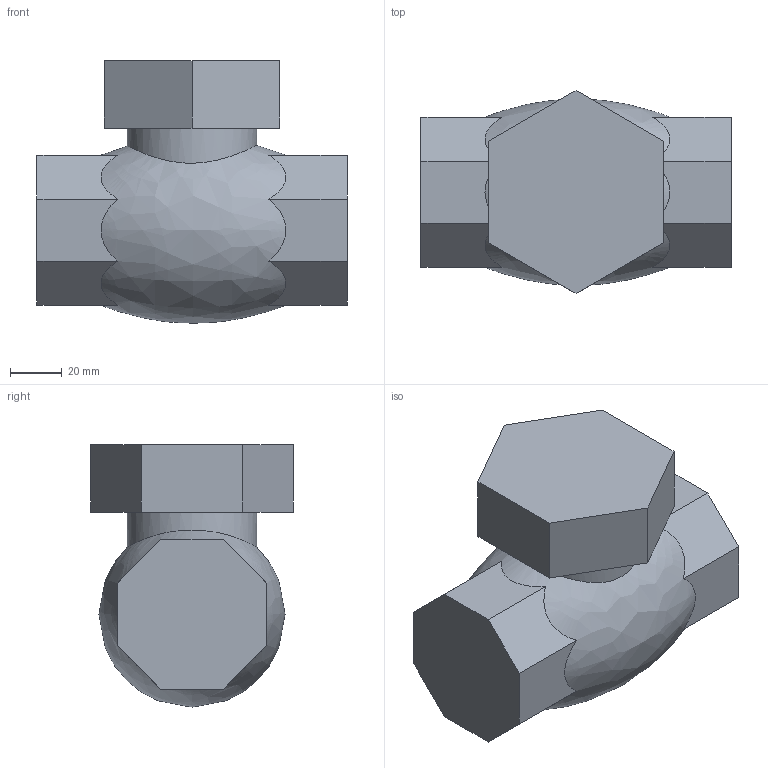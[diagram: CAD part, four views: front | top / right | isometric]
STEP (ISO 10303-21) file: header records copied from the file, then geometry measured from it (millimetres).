
FILE_DESCRIPTION(/* description */ (''),/* implementation_level */ '2;1');
FILE_NAME(/* name */ '32A.step',/* time_stamp */ '2023-12-08T09:30:32+09:00',/* author */ (''),/* organization */ (''),/* preprocessor_version */ 'ST-DEVELOPER v20',/* originating_system */ 'Autodesk Translation Framework v12.14.0.127',/* authorisation */ '');
FILE_SCHEMA (('AUTOMOTIVE_DESIGN { 1 0 10303 214 3 1 1 }'));
Length unit declared in the file: millimetre
Products named in the file (1): 32A
Bounding box: 120 x 78.52 x 101.5 mm (x, y, z)
Volume: 509076.8 mm3; surface area: 42030.2 mm2
Topology: 1 solids, 1 shells, 28 faces, 74 edges, 49 vertices
Faces by surface type: plane 26, bspline 1, cylinder 1
Full cylindrical faces by diameter (mm): 50 x1
Entity records: 1263 total; most frequent: CARTESIAN_POINT 581, ORIENTED_EDGE 148, DIRECTION 109, EDGE_CURVE 74, LINE 51, VECTOR 51, VERTEX_POINT 49, EDGE_LOOP 29
